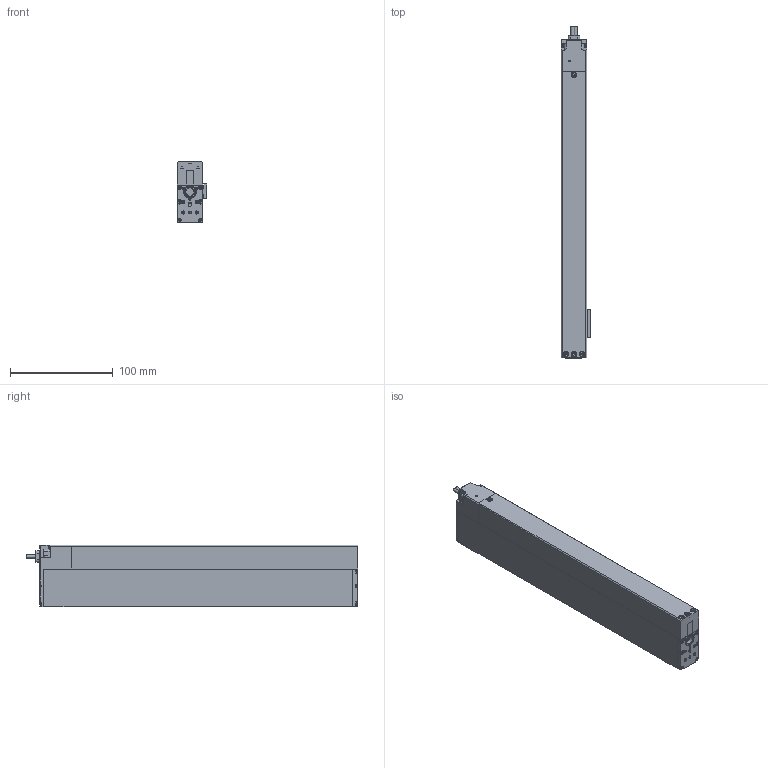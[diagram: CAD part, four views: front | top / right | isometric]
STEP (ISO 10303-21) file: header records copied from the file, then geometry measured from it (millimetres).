
FILE_DESCRIPTION((''),'2;1');
FILE_NAME('D:\SMAC-CAD\LCA\LCA25-3D-WEB\LCS25-200-1_1.stp','2011-11-07T15:17:19',('ToanVu'),(''),'Autodesk Inventor 2008','Autodesk Inventor 2008','');
FILE_SCHEMA(('AUTOMOTIVE_DESIGN { 1 0 10303 214 1 1 1 1 }'));
Length unit declared in the file: millimetre
Products named in the file (12): LCS25-200-1_1; CABLE-G_B; HSG-CS25-200-1; 11604-01_DX; MAGHSG25-200-1; 18553-01_AX; COVER25-STD; BS EN ISO 7045 H - Metric M2 x 3 - 4.8 - H;  Part 1 Hexagon Socket Head Cap Screw - Metric M2.5 x 4;  Part 1 Hexagon Socket Head Cap Screw - Metric M2 x 3; 220112-02_A1; Broached Socket Head Cap Screw - Metric M2x0.4 x 3
Assembly tree (28 placements, depth 2):
  LCS25-200-1_1
    CABLE-G_B
    HSG-CS25-200-1
    11604-01_DX
    MAGHSG25-200-1
    18553-01_AX
    COVER25-STD
    BS EN ISO 7045 H - Metric M2 x 3 - 4.8 - H  x10
     Part 1 Hexagon Socket Head Cap Screw - Metric M2.5 x 4  x4
     Part 1 Hexagon Socket Head Cap Screw - Metric M2 x 3  x4
    220112-02_A1
    Broached Socket Head Cap Screw - Metric M2x0.4 x 3  x3
Bounding box: 29 x 323.5 x 60 mm (x, y, z)
Volume: 454136 mm3; surface area: 94969 mm2
Topology: 28 solids, 28 shells, 869 faces, 2148 edges, 1384 vertices
Faces by surface type: plane 384, bspline 172, cone 150, cylinder 84, torus 69, sphere 10
Full cylindrical faces by diameter (mm): 1.783 x10, 2 x17, 2.5 x4, 3 x2, 3.8 x7, 4.5 x4, 11.1 x1, 12 x1, 14 x1
Entity records: 15740 total; most frequent: CARTESIAN_POINT 5175, DIRECTION 1995, ORIENTED_EDGE 1958, EDGE_CURVE 979, EDGE_LOOP 738, AXIS2_PLACEMENT_3D 715, VERTEX_POINT 710, VECTOR 565
